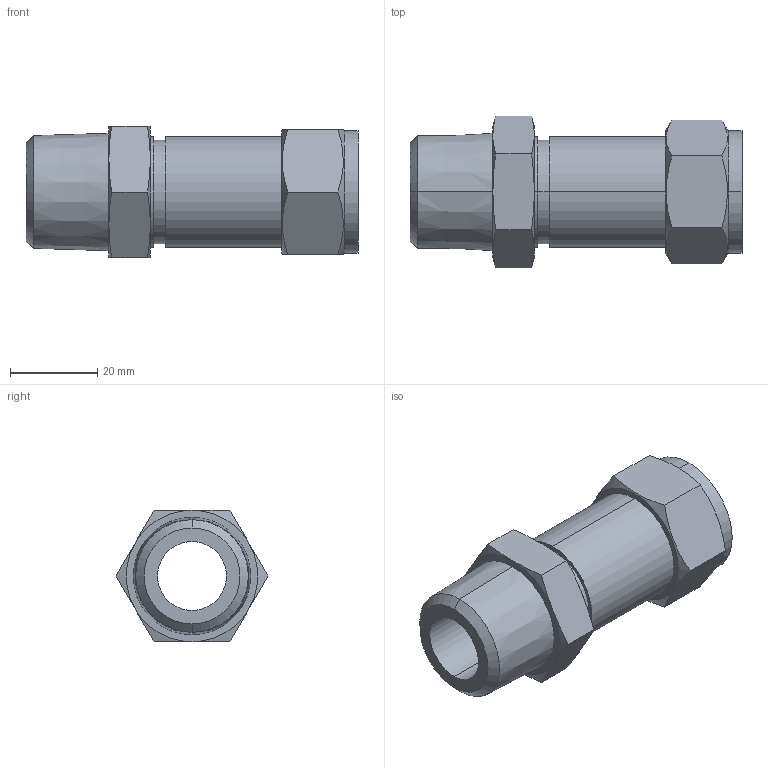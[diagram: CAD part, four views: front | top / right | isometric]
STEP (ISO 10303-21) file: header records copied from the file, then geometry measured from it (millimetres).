
FILE_DESCRIPTION (( 'STEP AP203' ), '1' );
FILE_NAME ('DSC12-12 SS.STEP', '2009-09-08T09:01:21', ( ' ' ), ( '' ), 'SwSTEP 2.0', 'SolidWorks 2008', '' );
FILE_SCHEMA (( 'CONFIG_CONTROL_DESIGN' ));
Length unit declared in the file: millimetre
Products named in the file (1): DSC12-12 SS
Bounding box: 76.1 x 34.83 x 30.16 mm (x, y, z)
Volume: 27662.5 mm3; surface area: 12133.1 mm2
Topology: 1 solids, 1 shells, 52 faces, 116 edges, 72 vertices
Faces by surface type: cone 20, plane 20, cylinder 12
Entity records: 1693 total; most frequent: CARTESIAN_POINT 497, ORIENTED_EDGE 232, DIRECTION 226, EDGE_CURVE 116, AXIS2_PLACEMENT_3D 97, VERTEX_POINT 72, EDGE_LOOP 60, FACE_OUTER_BOUND 52
